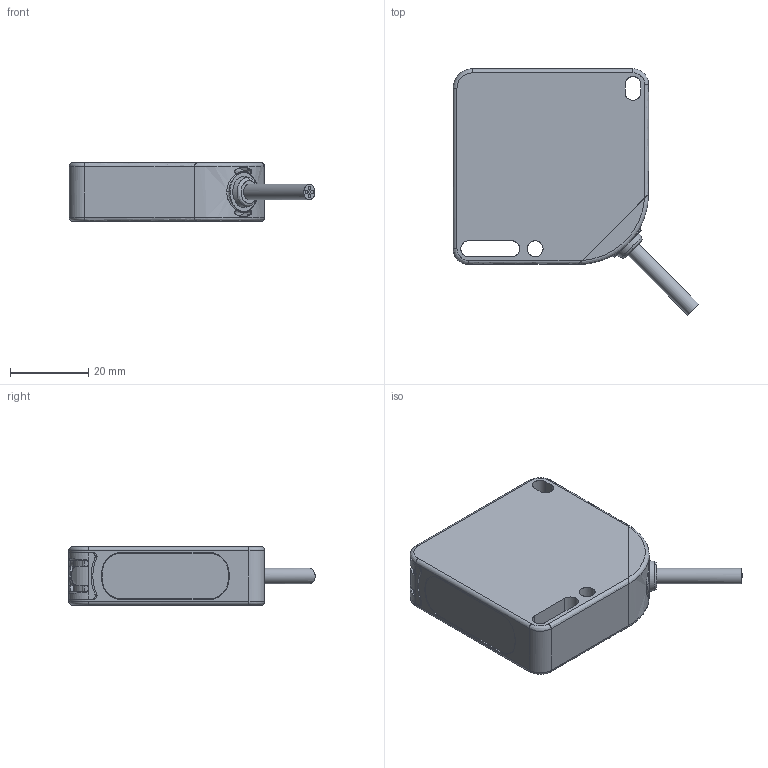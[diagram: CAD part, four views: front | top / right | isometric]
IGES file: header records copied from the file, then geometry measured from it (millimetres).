
Global section: file name: D:\Studi\DSD-0183.igs; preprocessor: I-DEAS 3D IGES Translator 11; date: 20080901.124651; units: millimetre
Bounding box: 62.89 x 62.95 x 15 mm (x, y, z)
Volume: 504.6 mm3; surface area: 11940 mm2
Topology: 2 solids, 2 shells, 283 faces, 1354 edges, 1252 vertices
Faces by surface type: bspline 283
